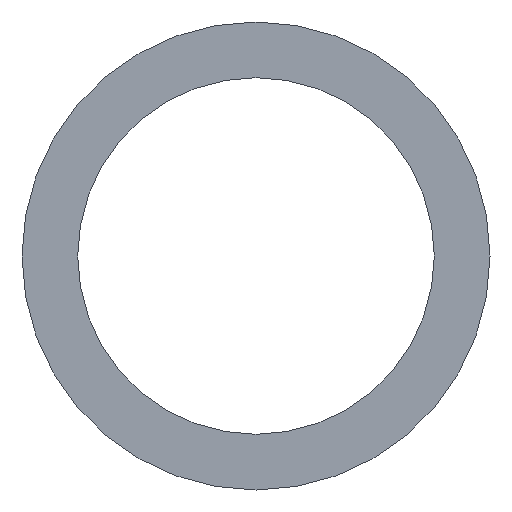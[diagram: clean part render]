
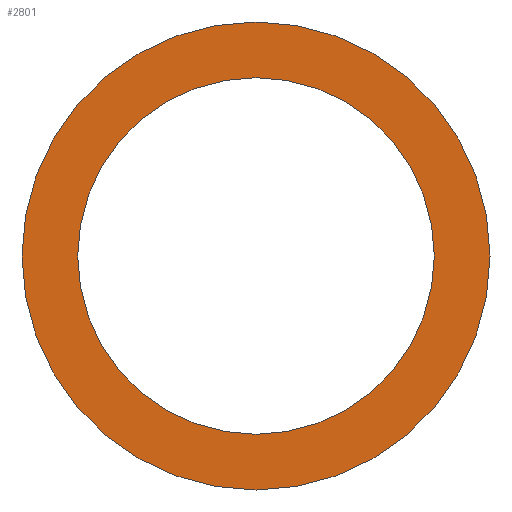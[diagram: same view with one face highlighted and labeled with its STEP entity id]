
A CAD part, front view. The second image highlights one B-rep face of the part: STEP entity #2801.
In plain terms, the highlighted planar face has unit normal (0, -1, 0).
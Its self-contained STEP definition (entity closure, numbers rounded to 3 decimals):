
#131 = DIRECTION ( 'NONE',  ( 0., -1., 0. ) ) ;
#612 = CARTESIAN_POINT ( 'NONE',  ( 0., -27., 105. ) ) ;
#623 = EDGE_LOOP ( 'NONE', ( #3618, #2191 ) ) ;
#788 = EDGE_CURVE ( 'NONE', #3784, #4498, #4041, .T. ) ;
#930 = CARTESIAN_POINT ( 'NONE',  ( 0., -27., -80. ) ) ;
#966 = EDGE_CURVE ( 'NONE', #4179, #2250, #4954, .T. ) ;
#974 = PLANE ( 'NONE',  #2274 ) ;
#1018 = AXIS2_PLACEMENT_3D ( 'NONE', #3936, #131, #2810 ) ;
#1028 = AXIS2_PLACEMENT_3D ( 'NONE', #2788, #1708, #2452 ) ;
#1487 = CARTESIAN_POINT ( 'NONE',  ( 0., -27., 0. ) ) ;
#1708 = DIRECTION ( 'NONE',  ( 0., -1., 0. ) ) ;
#1731 = CARTESIAN_POINT ( 'NONE',  ( 0., -27., 80. ) ) ;
#1837 = FACE_BOUND ( 'NONE', #4252, .T. ) ;
#1876 = DIRECTION ( 'NONE',  ( 0., 0., -1. ) ) ;
#2157 = ORIENTED_EDGE ( 'NONE', *, *, #3929, .F. ) ;
#2191 = ORIENTED_EDGE ( 'NONE', *, *, #788, .T. ) ;
#2250 = VERTEX_POINT ( 'NONE', #1731 ) ;
#2274 = AXIS2_PLACEMENT_3D ( 'NONE', #4402, #2898, #3675 ) ;
#2297 = DIRECTION ( 'NONE',  ( 0., -1., 0. ) ) ;
#2452 = DIRECTION ( 'NONE',  ( 0., 0., -1. ) ) ;
#2467 = ORIENTED_EDGE ( 'NONE', *, *, #966, .F. ) ;
#2661 = EDGE_CURVE ( 'NONE', #4498, #3784, #3898, .T. ) ;
#2788 = CARTESIAN_POINT ( 'NONE',  ( 0., -27., 0. ) ) ;
#2800 = DIRECTION ( 'NONE',  ( 0., 0., -1. ) ) ;
#2801 = ADVANCED_FACE ( 'NONE', ( #1837, #4440 ), #974, .F. ) ;
#2810 = DIRECTION ( 'NONE',  ( 0., 0., -1. ) ) ;
#2861 = CARTESIAN_POINT ( 'NONE',  ( 0., -27., -105. ) ) ;
#2898 = DIRECTION ( 'NONE',  ( 0., 1., 0. ) ) ;
#3271 = AXIS2_PLACEMENT_3D ( 'NONE', #3517, #3960, #2800 ) ;
#3517 = CARTESIAN_POINT ( 'NONE',  ( 0., -27., 0. ) ) ;
#3618 = ORIENTED_EDGE ( 'NONE', *, *, #2661, .T. ) ;
#3675 = DIRECTION ( 'NONE',  ( 0., 0., 1. ) ) ;
#3784 = VERTEX_POINT ( 'NONE', #612 ) ;
#3867 = AXIS2_PLACEMENT_3D ( 'NONE', #1487, #2297, #1876 ) ;
#3898 = CIRCLE ( 'NONE', #3271, 105. ) ;
#3929 = EDGE_CURVE ( 'NONE', #2250, #4179, #3938, .T. ) ;
#3936 = CARTESIAN_POINT ( 'NONE',  ( 0., -27., 0. ) ) ;
#3938 = CIRCLE ( 'NONE', #1018, 80. ) ;
#3960 = DIRECTION ( 'NONE',  ( 0., -1., 0. ) ) ;
#4041 = CIRCLE ( 'NONE', #1028, 105. ) ;
#4179 = VERTEX_POINT ( 'NONE', #930 ) ;
#4252 = EDGE_LOOP ( 'NONE', ( #2467, #2157 ) ) ;
#4402 = CARTESIAN_POINT ( 'NONE',  ( 0., -27., 80. ) ) ;
#4440 = FACE_OUTER_BOUND ( 'NONE', #623, .T. ) ;
#4498 = VERTEX_POINT ( 'NONE', #2861 ) ;
#4954 = CIRCLE ( 'NONE', #3867, 80. ) ;
